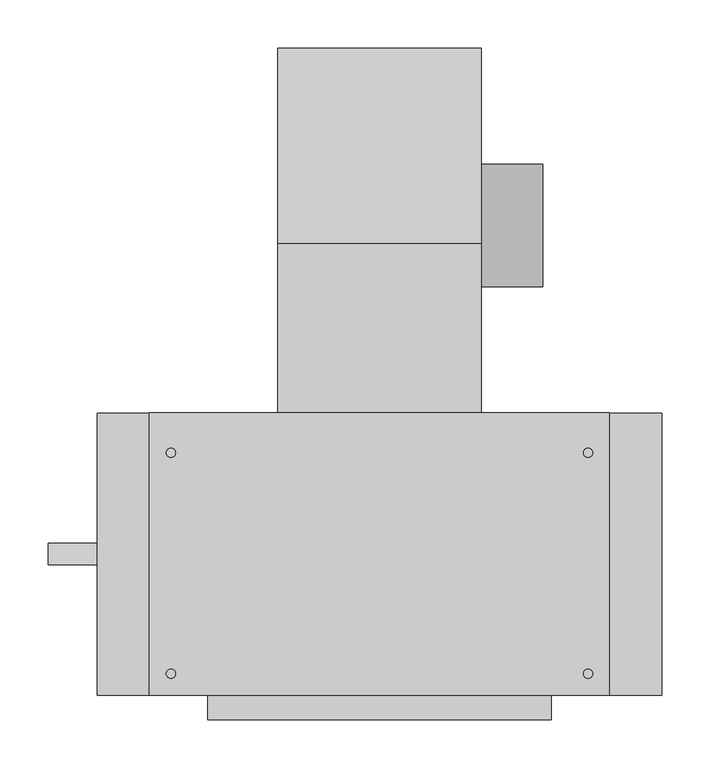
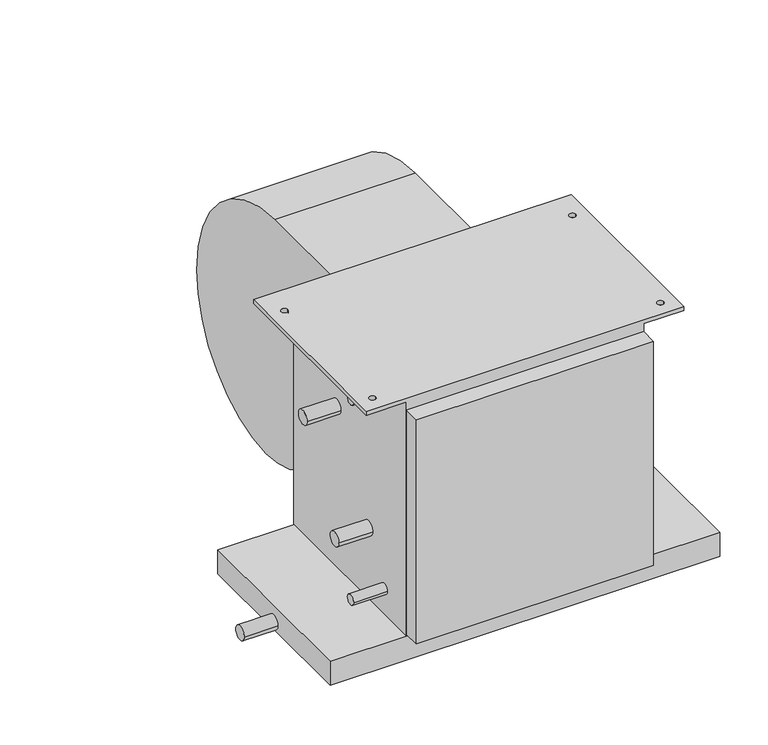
"""IFC4 building model written with IfcOpenShell, lengths in millimetres: proxy geometry, Concealed_High_Capacity_Horizontal_Fan_Coil_Unit_-_42DAA_-_CARRIER_-_4-Pipe_LH_2022 : Size 06 - 277v/60Hz/1Ph - 6/2 Coil."""

from ifc_helpers import new_model, si_unit, point, frame, frame_2d, origin, place, context, project, spatial, polyline, circle_curve, trimmed, segment, composite_curve, outline, extrude, source, transform, mapped, element, save
from ifc_brep_helpers import plane_surface, cylinder_surface, revolved_surface, advanced_brep


def mechanical_equipment_b18771d2(model_context):
    return source(origin(), model_context, "Body", "SolidModel", [
        extrude(outline(composite_curve([segment(trimmed(circle_curve(frame_2d((117.8757598, -213.2397468)), 63.5), [point((181.3757598, -213.2397468))], [point((54.3757598, -213.2397468))], False, "CARTESIAN"), True, "CONTINUOUS"), segment(trimmed(circle_curve(frame_2d((117.8757598, -213.2397468)), 63.5), [point((54.3757598, -213.2397468))], [point((181.3757598, -213.2397468))], False, "CARTESIAN"), True, "CONTINUOUS")], self_intersect=False)), frame((384.937, 0.0, 0.0), z_axis=(1.0, 0.0, 0.0), x_axis=(0.0, 1.0, 0.0)), (0.0, 0.0, 1.0), 63.5),
        advanced_brep(
        [(173.863, 301.3905957, -228.379602), (173.863, 120.4976, -409.99664), (173.863, -35.0266, -283.45638), (173.863, -76.2, -283.45638), (173.863, -76.2, -25.4), (173.863, 98.8830093, -25.4), (384.937, 301.3905957, -228.379602), (384.937, 98.8830093, -25.4), (384.937, -76.2, -25.4), (384.937, -76.2, -283.45638), (384.937, -35.0266, -283.45638), (384.937, 120.497599, -409.9957839)],
        [
            (0, 1, circle_curve(frame((173.863, 120.31726, -228.92258), z_axis=(-1.0, 0.0, 0.0), x_axis=(0.0, -1.0, 0.0)), 181.0741498)),
            (1, 2, circle_curve(frame((173.863, 120.31726, -251.37364), z_axis=(-1.0, 0.0, 0.0), x_axis=(0.0, -1.0, 0.0)), 158.6222464)),
            (2, 3),
            (3, 4),
            (4, 5),
            (5, 0, circle_curve(frame((173.863, 97.8662, -228.92258), z_axis=(-1.0, 0.0, 0.0), x_axis=(0.0, -1.0, 0.0)), 203.52512)),
            (6, 7, circle_curve(frame((384.937, 97.8662, -228.92258), z_axis=(1.0, 0.0, 0.0), x_axis=(0.0, -1.0, 0.0)), 203.52512)),
            (7, 8),
            (8, 9),
            (9, 10),
            (10, 11, circle_curve(frame((384.937, 120.31726, -251.37364), z_axis=(1.0, 0.0, 0.0), x_axis=(0.0, -1.0, 0.0)), 158.6222464)),
            (11, 6, circle_curve(frame((384.937, 120.31726, -228.92258), z_axis=(1.0, 0.0, 0.0), x_axis=(0.0, -1.0, 0.0)), 181.0741498)),
            (0, 6),
            (11, 1),
            (10, 2),
            (9, 3),
            (8, 4),
            (7, 5),
        ],
        [
            plane_surface(frame((173.863, -60.7568898, -228.92258), z_axis=(-1.0, 0.0, 0.0), x_axis=(0.0, 0.0, 1.0))),
            plane_surface(frame((384.937, -60.7568898, -228.92258), z_axis=(1.0, 0.0, 0.0), x_axis=(0.0, 0.0, -1.0))),
            cylinder_surface(frame((384.937, 120.31726, -228.92258), z_axis=(-1.0, 0.0, 0.0), x_axis=(0.0, -1.0, 0.0)), 181.0741498),
            cylinder_surface(frame((384.937, 120.31726, -251.37364), z_axis=(-1.0, 0.0, 0.0), x_axis=(0.0, -1.0, 0.0)), 158.6222464),
            plane_surface(frame((173.863, -35.0266, -283.45638), z_axis=(0.0, 0.0, -1.0), x_axis=(1.0, 0.0, 0.0))),
            plane_surface(frame((173.863, -76.2, -283.45638), z_axis=(0.0, -1.0, 0.0), x_axis=(1.0, 0.0, 0.0))),
            plane_surface(frame((173.863, -76.2, -25.4), z_axis=(0.0, 0.0, 1.0), x_axis=(1.0, 0.0, 0.0))),
            cylinder_surface(frame((384.937, 97.8662, -228.92258), z_axis=(-1.0, 0.0, 0.0), x_axis=(0.0, -1.0, 0.0)), 203.52512),
        ],
        [
            (0, [[1, 2, 3, 4, 5, 6]]),
            (1, [[7, 8, 9, 10, 11, 12]]),
            (2, [[-1, 13, -12, 14]]),
            (3, [[-2, -14, -11, 15]]),
            (4, [[-3, -15, -10, 16]]),
            (5, [[-4, -16, -9, 17]]),
            (6, [[-5, -17, -8, 18]]),
            (7, [[-6, -18, -7, -13]]),
        ],
    ),
        extrude(outline(polyline([(571.5, -76.2), (571.5, -368.3), (-12.7, -368.3), (-12.7, -76.2), (571.5, -76.2)])), frame((0.0, 0.0, -415.925), z_axis=(0.0, 0.0, 1.0), x_axis=(1.0, 0.0, 0.0)), (0.0, 0.0, 1.0), 38.1),
        extrude(outline(polyline([(457.2, -393.7), (101.6, -393.7), (101.6, -368.3), (457.2, -368.3), (457.2, -393.7)])), frame((0.0, 0.0, -374.65), z_axis=(0.0, 0.0, 1.0), x_axis=(1.0, 0.0, 0.0)), (0.0, 0.0, 1.0), 355.6),
        extrude(outline(composite_curve([segment(trimmed(circle_curve(frame_2d((-222.25, -403.225)), 11.1125), [point((-233.3625, -403.225))], [point((-211.1375, -403.225))], False, "CARTESIAN"), True, "CONTINUOUS"), segment(trimmed(circle_curve(frame_2d((-222.25, -403.225)), 11.1125), [point((-211.1375, -403.225))], [point((-233.3625, -403.225))], False, "CARTESIAN"), True, "CONTINUOUS")], self_intersect=False)), frame((-63.5, 0.0, 0.0), z_axis=(1.0, 0.0, 0.0), x_axis=(0.0, 1.0, 0.0)), (0.0, 0.0, 1.0), 50.8),
        extrude(outline(composite_curve([segment(trimmed(circle_curve(frame_2d((-187.325, -122.2375)), 11.1125), [point((-198.4375, -122.2375))], [point((-176.2125, -122.2375))], False, "CARTESIAN"), True, "CONTINUOUS"), segment(trimmed(circle_curve(frame_2d((-187.325, -122.2375)), 11.1125), [point((-176.2125, -122.2375))], [point((-198.4375, -122.2375))], False, "CARTESIAN"), True, "CONTINUOUS")], self_intersect=False)), frame((50.8, 0.0, 0.0), z_axis=(1.0, 0.0, 0.0), x_axis=(0.0, 1.0, 0.0)), (0.0, 0.0, 1.0), 50.8),
        extrude(outline(composite_curve([segment(trimmed(circle_curve(frame_2d((-269.875, -265.1125)), 11.1125), [point((-280.9875, -265.1125))], [point((-258.7625, -265.1125))], False, "CARTESIAN"), True, "CONTINUOUS"), segment(trimmed(circle_curve(frame_2d((-269.875, -265.1125)), 11.1125), [point((-258.7625, -265.1125))], [point((-280.9875, -265.1125))], False, "CARTESIAN"), True, "CONTINUOUS")], self_intersect=False)), frame((50.8, 0.0, 0.0), z_axis=(1.0, 0.0, 0.0), x_axis=(0.0, 1.0, 0.0)), (0.0, 0.0, 1.0), 50.8),
        extrude(outline(composite_curve([segment(trimmed(circle_curve(frame_2d((-311.15, -19.05)), 7.9375), [point((-319.0875, -19.05))], [point((-303.2125, -19.05))], False, "CARTESIAN"), True, "CONTINUOUS"), segment(trimmed(circle_curve(frame_2d((-311.15, -19.05)), 7.9375), [point((-303.2125, -19.05))], [point((-319.0875, -19.05))], False, "CARTESIAN"), True, "CONTINUOUS")], self_intersect=False)), frame((50.8, 0.0, 0.0), z_axis=(1.0, 0.0, 0.0), x_axis=(0.0, 1.0, 0.0)), (0.0, 0.0, 1.0), 50.8),
        extrude(outline(composite_curve([segment(trimmed(circle_curve(frame_2d((-311.15, -336.55)), 7.9375), [point((-319.0875, -336.55))], [point((-303.2125, -336.55))], False, "CARTESIAN"), True, "CONTINUOUS"), segment(trimmed(circle_curve(frame_2d((-311.15, -336.55)), 7.9375), [point((-303.2125, -336.55))], [point((-319.0875, -336.55))], False, "CARTESIAN"), True, "CONTINUOUS")], self_intersect=False)), frame((50.8, 0.0, 0.0), z_axis=(1.0, 0.0, 0.0), x_axis=(0.0, 1.0, 0.0)), (0.0, 0.0, 1.0), 50.8),
        advanced_brep(
        [(457.2, -76.2, -377.825), (457.2, -368.3, -377.825), (101.6, -368.3, -377.825), (101.6, -76.2, -377.825), (101.6, -368.3, -6.35), (101.6, -76.2, -6.35), (457.2, -76.2, -6.35), (457.2, -368.3, -6.35), (41.275, -76.2, 0.0), (41.275, -368.3, 0.0), (517.525, -368.3, 0.0), (517.525, -76.2, 0.0), (68.2625, -117.475, 0.0), (58.7375, -117.475, 0.0), (68.2625, -346.075, 0.0), (58.7375, -346.075, 0.0), (500.0625, -117.475, 0.0), (490.5375, -117.475, 0.0), (500.0625, -346.075, 0.0), (490.5375, -346.075, 0.0), (41.275, -76.2, -6.35), (41.275, -368.3, -6.35), (58.7375, -117.475, -6.35), (68.2625, -117.475, -6.35), (58.7375, -346.075, -6.35), (68.2625, -346.075, -6.35), (517.525, -76.2, -6.35), (517.525, -368.3, -6.35), (490.5375, -117.475, -6.35), (500.0625, -117.475, -6.35), (490.5375, -346.075, -6.35), (500.0625, -346.075, -6.35)],
        [
            (0, 1),
            (1, 2),
            (2, 3),
            (3, 0),
            (2, 4),
            (4, 5),
            (5, 3),
            (0, 6),
            (6, 7),
            (7, 1),
            (8, 9),
            (9, 10),
            (10, 11),
            (11, 8),
            (12, 13, circle_curve(frame((63.5, -117.475, 0.0), z_axis=(0.0, 0.0, -1.0), x_axis=(1.0, 0.0, 0.0)), 4.7625)),
            (13, 12, circle_curve(frame((63.5, -117.475, 0.0), z_axis=(0.0, 0.0, -1.0), x_axis=(1.0, 0.0, 0.0)), 4.7625)),
            (14, 15, circle_curve(frame((63.5, -346.075, 0.0), z_axis=(0.0, 0.0, -1.0), x_axis=(1.0, 0.0, 0.0)), 4.7625)),
            (15, 14, circle_curve(frame((63.5, -346.075, 0.0), z_axis=(0.0, 0.0, -1.0), x_axis=(1.0, 0.0, 0.0)), 4.7625)),
            (16, 17, circle_curve(frame((495.3, -117.475, 0.0), z_axis=(0.0, 0.0, -1.0), x_axis=(1.0, 0.0, 0.0)), 4.7625)),
            (17, 16, circle_curve(frame((495.3, -117.475, 0.0), z_axis=(0.0, 0.0, -1.0), x_axis=(1.0, 0.0, 0.0)), 4.7625)),
            (18, 19, circle_curve(frame((495.3, -346.075, 0.0), z_axis=(0.0, 0.0, -1.0), x_axis=(1.0, 0.0, 0.0)), 4.7625)),
            (19, 18, circle_curve(frame((495.3, -346.075, 0.0), z_axis=(0.0, 0.0, -1.0), x_axis=(1.0, 0.0, 0.0)), 4.7625)),
            (20, 5),
            (4, 21),
            (21, 20),
            (22, 23, circle_curve(frame((63.5, -117.475, -6.35), z_axis=(0.0, 0.0, 1.0), x_axis=(1.0, 0.0, 0.0)), 4.7625)),
            (23, 22, circle_curve(frame((63.5, -117.475, -6.35), z_axis=(0.0, 0.0, 1.0), x_axis=(1.0, 0.0, 0.0)), 4.7625)),
            (24, 25, circle_curve(frame((63.5, -346.075, -6.35), z_axis=(0.0, 0.0, 1.0), x_axis=(1.0, 0.0, 0.0)), 4.7625)),
            (25, 24, circle_curve(frame((63.5, -346.075, -6.35), z_axis=(0.0, 0.0, 1.0), x_axis=(1.0, 0.0, 0.0)), 4.7625)),
            (26, 27),
            (27, 7),
            (6, 26),
            (28, 29, circle_curve(frame((495.3, -117.475, -6.35), z_axis=(0.0, 0.0, 1.0), x_axis=(1.0, 0.0, 0.0)), 4.7625)),
            (29, 28, circle_curve(frame((495.3, -117.475, -6.35), z_axis=(0.0, 0.0, 1.0), x_axis=(1.0, 0.0, 0.0)), 4.7625)),
            (30, 31, circle_curve(frame((495.3, -346.075, -6.35), z_axis=(0.0, 0.0, 1.0), x_axis=(1.0, 0.0, 0.0)), 4.7625)),
            (31, 30, circle_curve(frame((495.3, -346.075, -6.35), z_axis=(0.0, 0.0, 1.0), x_axis=(1.0, 0.0, 0.0)), 4.7625)),
            (8, 20),
            (21, 9),
            (27, 10),
            (11, 26),
            (12, 23),
            (22, 13),
            (14, 25),
            (24, 15),
            (16, 29),
            (28, 17),
            (18, 31),
            (30, 19),
        ],
        [
            plane_surface(frame((101.6, -76.2, -377.825), z_axis=(0.0, 0.0, -1.0), x_axis=(1.0, 0.0, 0.0))),
            plane_surface(frame((101.6, -76.2, 0.0), z_axis=(-1.0, 0.0, 0.0), x_axis=(0.0, 0.0, -1.0))),
            plane_surface(frame((457.2, -368.3, 0.0), z_axis=(1.0, 0.0, 0.0), x_axis=(0.0, 0.0, -1.0))),
            plane_surface(frame((41.275, -76.2, 0.0), z_axis=(0.0, 0.0, 1.0), x_axis=(0.0, -1.0, 0.0))),
            plane_surface(frame((41.275, -76.2, -6.35), z_axis=(0.0, 0.0, -1.0), x_axis=(0.0, 1.0, 0.0))),
            plane_surface(frame((41.275, -76.2, 0.0), z_axis=(-1.0, 0.0, 0.0), x_axis=(0.0, 0.0, -1.0))),
            plane_surface(frame((41.275, -368.3, 0.0), z_axis=(0.0, -1.0, 0.0), x_axis=(0.0, 0.0, -1.0))),
            plane_surface(frame((101.6, -76.2, 0.0), z_axis=(0.0, 1.0, 0.0), x_axis=(0.0, 0.0, -1.0))),
            plane_surface(frame((517.525, -368.3, 0.0), z_axis=(1.0, 0.0, 0.0), x_axis=(0.0, 0.0, -1.0))),
            revolved_surface(polyline([(68.2625, -117.475, 0.0), (68.2625, -117.475, -6.35)]), (63.5, -117.475, -6.35), (0.0, 0.0, 1.0)),
            revolved_surface(polyline([(68.2625, -346.075, 0.0), (68.2625, -346.075, -6.35)]), (63.5, -346.075, 0.0), (0.0, 0.0, 1.0)),
            revolved_surface(polyline([(500.0625, -117.475, 0.0), (500.0625, -117.475, -6.35)]), (495.3, -117.475, 0.0), (0.0, 0.0, 1.0)),
            revolved_surface(polyline([(500.0625, -346.075, 0.0), (500.0625, -346.075, -6.35)]), (495.3, -346.075, 0.0), (0.0, 0.0, 1.0)),
        ],
        [
            (0, [[1, 2, 3, 4]]),
            (1, [[-3, 5, 6, 7]]),
            (2, [[-1, 8, 9, 10]]),
            (3, [[11, 12, 13, 14], [15, 16], [17, 18], [19, 20], [21, 22]]),
            (4, [[23, -6, 24, 25], [26, 27], [28, 29]]),
            (4, [[30, 31, -9, 32], [33, 34], [35, 36]]),
            (5, [[-11, 37, -25, 38]]),
            (6, [[-12, -38, -24, -5, -2, -10, -31, 39]]),
            (7, [[-14, 40, -32, -8, -4, -7, -23, -37]]),
            (8, [[-13, -39, -30, -40]]),
            (9, [[41, -26, 42, -15]]),
            (9, [[-41, -16, -42, -27]]),
            (10, [[43, -28, 44, -17]]),
            (10, [[-43, -18, -44, -29]]),
            (11, [[45, -33, 46, -19]]),
            (11, [[-45, -20, -46, -34]]),
            (12, [[47, -35, 48, -21]]),
            (12, [[-47, -22, -48, -36]]),
        ],
    ),
    ])


if __name__ == "__main__":
    model = new_model("IFC4")
    model_context = context("Model", 3, world=origin())
    ifc_project = project(units=[si_unit("LENGTHUNIT", "METRE", prefix="MILLI")], contexts=[model_context])
    site = spatial("IfcSite", under=ifc_project)
    building = spatial("IfcBuilding", under=site)
    placement = place(None, origin())
    mechanical_equipment_shape = mechanical_equipment_b18771d2(model_context)
    element("IfcBuildingElementProxy", 1, Name="Concealed_High_Capacity_Horizontal_Fan_Coil_Unit_-_42DAA_-_CARRIER_-_4-Pipe_LH_2022 : Size 06 - 277v/60Hz/1Ph - 6/2 Coil", ObjectType="Concealed_High_Capacity_Horizontal_Fan_Coil_Unit_-_42DAA_-_CARRIER_-_4-Pipe_LH_2022 : Size 06 - 277v/60Hz/1Ph - 6/2 Coil", at=placement, inside=building, context=model_context, shape_type="MappedRepresentation", body=[
        mapped(mechanical_equipment_shape, transform((0.0, 0.0, 0.0), x_axis=(1.0, 0.0, 0.0), y_axis=(0.0, 1.0, 0.0), z_axis=(0.0, 0.0, 1.0))),
    ])
    save(model, "model.ifc")
